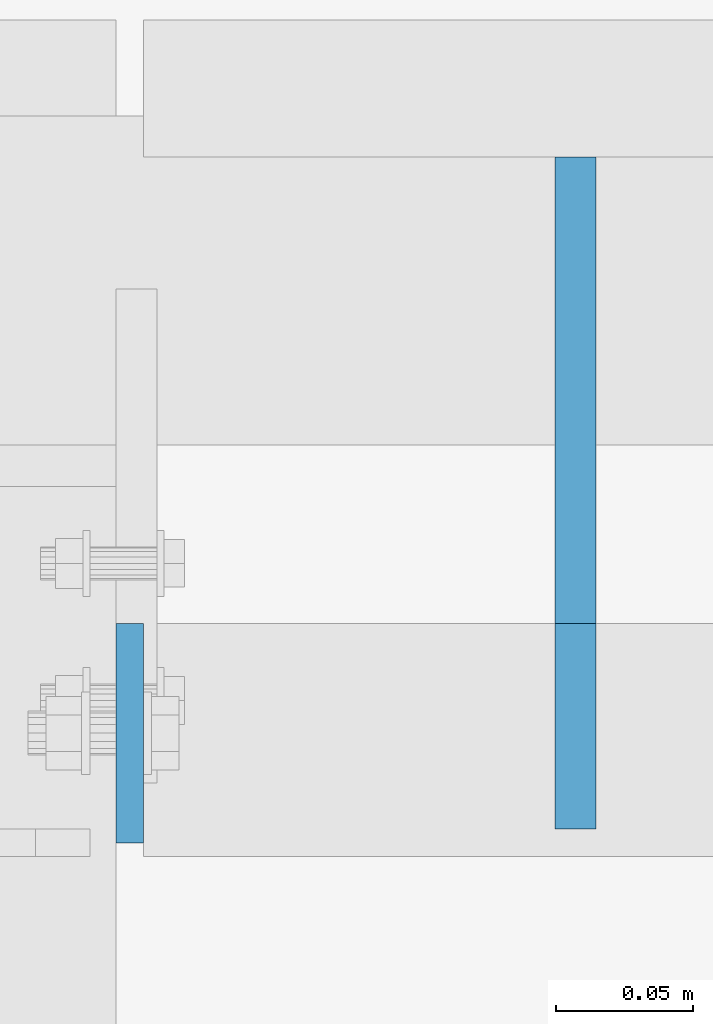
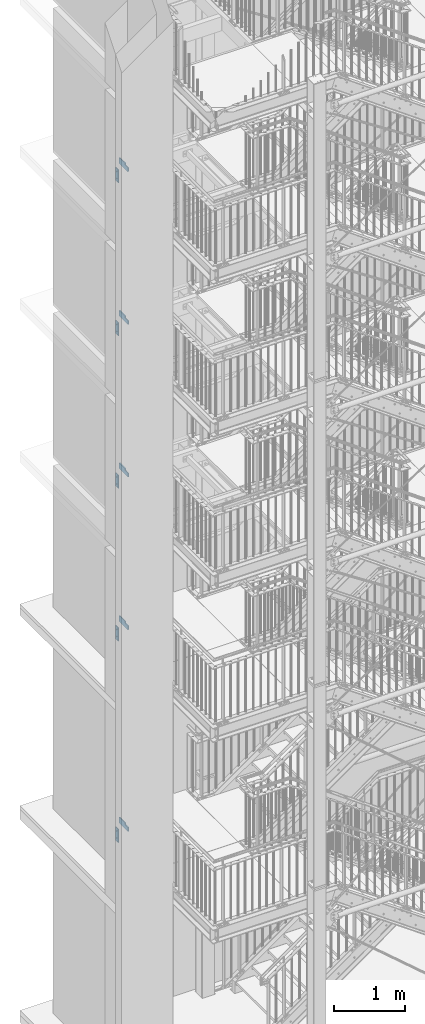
# One storey, part 179 of 821: 10 plates, 25 openings.
"""IFC2X3 building model written with IfcOpenShell, lengths in millimetres."""

from ifc_helpers import new_model, entity, si_unit, converted_unit, point, frame, frame_2d, origin, origin_with_axes, origin_2d_with_axis, place, context, project, spatial, polyline, circle_curve, line_curve, trimmed, segment, composite_curve, circle, outline, extrude, material, layer, layer_set, element, save


model = new_model("IFC2X3")

# Units and contexts
model_context = context("Model", 3, precision=1e-09, world=origin_with_axes())
ifc_project = project(units=[si_unit("LENGTHUNIT", "METRE", prefix="MILLI"), si_unit("AREAUNIT", "SQUARE_METRE"), si_unit("VOLUMEUNIT", "CUBIC_METRE"), converted_unit("PLANEANGLEUNIT", "DEGREE", entity("IfcPlaneAngleMeasure", 0.01745329), si_unit("PLANEANGLEUNIT", "RADIAN"), dimensions=[0, 0, 0, 0, 0, 0, 0])], contexts=[model_context])

# Site, building, storey
site_placement = place(None, origin_with_axes())
site = spatial("IfcSite", under=ifc_project, at=site_placement, Name="Cnopf'sche Kinderklinik", CompositionType="ELEMENT")
building_placement = place(site_placement, origin_with_axes())
building = spatial("IfcBuilding", under=site, at=building_placement, Name="Struktur 1", CompositionType="ELEMENT")
storey_placement = place(building_placement, origin_with_axes())
storey = spatial("IfcBuildingStorey", under=building, at=storey_placement, Name="Default Storey", CompositionType="ELEMENT", Elevation=0.0)

# Plate, opening
ifc_material = material(Name="S235JR")
ifc_layer_1 = layer(ifc_material, 15.0)
ifc_layer_set_1 = layer_set([ifc_layer_1], Name="S235JR")
plate_1_placement = place(None, frame((3481.713402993, 7439.236971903, 3797.0), z_axis=(-1.0, 0.0, 0.0), x_axis=(0.0, -1.0, 0.0)))
plate_1 = element("IfcPlate", 1, at=plate_1_placement, inside=storey, material=ifc_layer_set_1, Name="-", ObjectType="-", context=model_context, shape_type="SweptSolid", body=[
    extrude(outline(polyline([(-122.5, -50.0), (122.5, -50.0), (122.5, 50.0), (-122.5, 50.0), (-122.5, -50.0)])), origin_with_axes(), (0.0, 0.0, -1.0), 15.0),
])
opening_1_placement = place(plate_1_placement, frame((47.499, 29.999, 0.1), z_axis=(0.0, 0.0, 1.0), x_axis=(0.707106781, -0.707106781, 0.0)))
element("IfcOpeningElement", 2, at=opening_1_placement, cuts=plate_1, ObjectType="Opening", context=model_context, shape_type="SweptSolid", body=[
    extrude(outline(composite_curve([segment(trimmed(circle_curve(frame_2d((7.071067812, 7.071067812), x_axis=(1.0, 0.0)), 10.0), [point((0.0, 0.0))], [point((14.142135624, 0.0))], True, "CARTESIAN"), True, "CONTINUOUS"), segment(trimmed(line_curve((14.142135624, 0.0), (0.707106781, 0.707106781), 93.063804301), [point((14.142135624, 0.0))], [point((79.948182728, 65.806047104))], True, "CARTESIAN"), True, "CONTINUOUS"), segment(trimmed(circle_curve(frame_2d((72.877114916, 72.877114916), x_axis=(1.0, 0.0)), 10.0), [point((79.948182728, 65.806047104))], [point((79.948182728, 79.948182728))], True, "CARTESIAN"), True, "CONTINUOUS"), segment(trimmed(line_curve((79.948182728, 79.948182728), (-0.707106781, 0.707106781), 40.184858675), [point((79.948182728, 79.948182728))], [point((51.533196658, 108.363168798))], True, "CARTESIAN"), True, "CONTINUOUS"), segment(trimmed(circle_curve(frame_2d((44.462128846, 101.292100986), x_axis=(1.0, 0.0)), 10.0), [point((51.533196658, 108.363168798))], [point((37.391061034, 108.363168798))], True, "CARTESIAN"), True, "CONTINUOUS"), segment(trimmed(line_curve((37.391061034, 108.363168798), (-0.707106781, -0.707106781), 93.063804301), [point((37.391061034, 108.363168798))], [point((-28.41498607, 42.557121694))], True, "CARTESIAN"), True, "CONTINUOUS"), segment(trimmed(circle_curve(frame_2d((-21.343918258, 35.486053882), x_axis=(1.0, 0.0)), 10.0), [point((-28.41498607, 42.557121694))], [point((-28.41498607, 28.41498607))], True, "CARTESIAN"), True, "CONTINUOUS"), segment(trimmed(line_curve((-28.41498607, 28.41498607), (0.707106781, -0.707106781), 40.184858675), [point((-28.41498607, 28.41498607))], [point((0.0, 0.0))], True, "CARTESIAN"), True, "CONTINUOUS")], self_intersect=False)), origin(), (0.0, 0.0, -1.0), 15.2),
])

plate_2_placement = place(None, frame((3481.713402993, 7439.236971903, 7270.0), z_axis=(-1.0, 0.0, 0.0), x_axis=(0.0, -1.0, 0.0)))
plate_2 = element("IfcPlate", 3, at=plate_2_placement, inside=storey, material=ifc_layer_set_1, Name="-", ObjectType="-", context=model_context, shape_type="SweptSolid", body=[
    extrude(outline(polyline([(-122.5, -50.0), (122.5, -50.0), (122.5, 50.0), (-122.5, 50.0), (-122.5, -50.0)])), origin_with_axes(), (0.0, 0.0, -1.0), 15.0),
])
opening_2_placement = place(plate_2_placement, frame((47.499, 29.999, 0.1), z_axis=(0.0, 0.0, 1.0), x_axis=(0.707106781, -0.707106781, 0.0)))
element("IfcOpeningElement", 4, at=opening_2_placement, cuts=plate_2, ObjectType="Opening", context=model_context, shape_type="SweptSolid", body=[
    extrude(outline(composite_curve([segment(trimmed(circle_curve(frame_2d((7.071067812, 7.071067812), x_axis=(1.0, 0.0)), 10.0), [point((0.0, 0.0))], [point((14.142135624, 0.0))], True, "CARTESIAN"), True, "CONTINUOUS"), segment(trimmed(line_curve((14.142135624, 0.0), (0.707106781, 0.707106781), 93.063804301), [point((14.142135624, 0.0))], [point((79.948182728, 65.806047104))], True, "CARTESIAN"), True, "CONTINUOUS"), segment(trimmed(circle_curve(frame_2d((72.877114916, 72.877114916), x_axis=(1.0, 0.0)), 10.0), [point((79.948182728, 65.806047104))], [point((79.948182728, 79.948182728))], True, "CARTESIAN"), True, "CONTINUOUS"), segment(trimmed(line_curve((79.948182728, 79.948182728), (-0.707106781, 0.707106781), 40.184858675), [point((79.948182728, 79.948182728))], [point((51.533196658, 108.363168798))], True, "CARTESIAN"), True, "CONTINUOUS"), segment(trimmed(circle_curve(frame_2d((44.462128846, 101.292100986), x_axis=(1.0, 0.0)), 10.0), [point((51.533196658, 108.363168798))], [point((37.391061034, 108.363168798))], True, "CARTESIAN"), True, "CONTINUOUS"), segment(trimmed(line_curve((37.391061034, 108.363168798), (-0.707106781, -0.707106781), 93.063804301), [point((37.391061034, 108.363168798))], [point((-28.41498607, 42.557121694))], True, "CARTESIAN"), True, "CONTINUOUS"), segment(trimmed(circle_curve(frame_2d((-21.343918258, 35.486053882), x_axis=(1.0, 0.0)), 10.0), [point((-28.41498607, 42.557121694))], [point((-28.41498607, 28.41498607))], True, "CARTESIAN"), True, "CONTINUOUS"), segment(trimmed(line_curve((-28.41498607, 28.41498607), (0.707106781, -0.707106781), 40.184858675), [point((-28.41498607, 28.41498607))], [point((0.0, 0.0))], True, "CARTESIAN"), True, "CONTINUOUS")], self_intersect=False)), origin(), (0.0, 0.0, -1.0), 15.2),
])

plate_3_placement = place(None, frame((3481.713402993, 7439.236971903, 9902.0), z_axis=(-1.0, 0.0, 0.0), x_axis=(0.0, -1.0, 0.0)))
plate_3 = element("IfcPlate", 5, at=plate_3_placement, inside=storey, material=ifc_layer_set_1, Name="-", ObjectType="-", context=model_context, shape_type="SweptSolid", body=[
    extrude(outline(polyline([(-122.5, -50.0), (122.5, -50.0), (122.5, 50.0), (-122.5, 50.0), (-122.5, -50.0)])), origin_with_axes(), (0.0, 0.0, -1.0), 15.0),
])
opening_3_placement = place(plate_3_placement, frame((47.499, 29.999, 0.1), z_axis=(0.0, 0.0, 1.0), x_axis=(0.707106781, -0.707106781, 0.0)))
element("IfcOpeningElement", 6, at=opening_3_placement, cuts=plate_3, ObjectType="Opening", context=model_context, shape_type="SweptSolid", body=[
    extrude(outline(composite_curve([segment(trimmed(circle_curve(frame_2d((7.071067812, 7.071067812), x_axis=(1.0, 0.0)), 10.0), [point((0.0, 0.0))], [point((14.142135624, 0.0))], True, "CARTESIAN"), True, "CONTINUOUS"), segment(trimmed(line_curve((14.142135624, 0.0), (0.707106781, 0.707106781), 93.063804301), [point((14.142135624, 0.0))], [point((79.948182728, 65.806047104))], True, "CARTESIAN"), True, "CONTINUOUS"), segment(trimmed(circle_curve(frame_2d((72.877114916, 72.877114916), x_axis=(1.0, 0.0)), 10.0), [point((79.948182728, 65.806047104))], [point((79.948182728, 79.948182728))], True, "CARTESIAN"), True, "CONTINUOUS"), segment(trimmed(line_curve((79.948182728, 79.948182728), (-0.707106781, 0.707106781), 40.184858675), [point((79.948182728, 79.948182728))], [point((51.533196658, 108.363168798))], True, "CARTESIAN"), True, "CONTINUOUS"), segment(trimmed(circle_curve(frame_2d((44.462128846, 101.292100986), x_axis=(1.0, 0.0)), 10.0), [point((51.533196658, 108.363168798))], [point((37.391061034, 108.363168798))], True, "CARTESIAN"), True, "CONTINUOUS"), segment(trimmed(line_curve((37.391061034, 108.363168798), (-0.707106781, -0.707106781), 93.063804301), [point((37.391061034, 108.363168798))], [point((-28.41498607, 42.557121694))], True, "CARTESIAN"), True, "CONTINUOUS"), segment(trimmed(circle_curve(frame_2d((-21.343918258, 35.486053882), x_axis=(1.0, 0.0)), 10.0), [point((-28.41498607, 42.557121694))], [point((-28.41498607, 28.41498607))], True, "CARTESIAN"), True, "CONTINUOUS"), segment(trimmed(line_curve((-28.41498607, 28.41498607), (0.707106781, -0.707106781), 40.184858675), [point((-28.41498607, 28.41498607))], [point((0.0, 0.0))], True, "CARTESIAN"), True, "CONTINUOUS")], self_intersect=False)), origin(), (0.0, 0.0, -1.0), 15.2),
])

plate_4_placement = place(None, frame((3481.713402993, 7439.236971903, 12529.0), z_axis=(-1.0, 0.0, 0.0), x_axis=(0.0, -1.0, 0.0)))
plate_4 = element("IfcPlate", 7, at=plate_4_placement, inside=storey, material=ifc_layer_set_1, Name="-", ObjectType="-", context=model_context, shape_type="SweptSolid", body=[
    extrude(outline(polyline([(-122.5, -50.0), (122.5, -50.0), (122.5, 50.0), (-122.5, 50.0), (-122.5, -50.0)])), origin_with_axes(), (0.0, 0.0, -1.0), 15.0),
])
opening_4_placement = place(plate_4_placement, frame((47.499, 29.999, 0.1), z_axis=(0.0, 0.0, 1.0), x_axis=(0.707106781, -0.707106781, 0.0)))
element("IfcOpeningElement", 8, at=opening_4_placement, cuts=plate_4, ObjectType="Opening", context=model_context, shape_type="SweptSolid", body=[
    extrude(outline(composite_curve([segment(trimmed(circle_curve(frame_2d((7.071067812, 7.071067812), x_axis=(1.0, 0.0)), 10.0), [point((0.0, 0.0))], [point((14.142135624, 0.0))], True, "CARTESIAN"), True, "CONTINUOUS"), segment(trimmed(line_curve((14.142135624, 0.0), (0.707106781, 0.707106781), 93.063804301), [point((14.142135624, 0.0))], [point((79.948182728, 65.806047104))], True, "CARTESIAN"), True, "CONTINUOUS"), segment(trimmed(circle_curve(frame_2d((72.877114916, 72.877114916), x_axis=(1.0, 0.0)), 10.0), [point((79.948182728, 65.806047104))], [point((79.948182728, 79.948182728))], True, "CARTESIAN"), True, "CONTINUOUS"), segment(trimmed(line_curve((79.948182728, 79.948182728), (-0.707106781, 0.707106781), 40.184858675), [point((79.948182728, 79.948182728))], [point((51.533196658, 108.363168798))], True, "CARTESIAN"), True, "CONTINUOUS"), segment(trimmed(circle_curve(frame_2d((44.462128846, 101.292100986), x_axis=(1.0, 0.0)), 10.0), [point((51.533196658, 108.363168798))], [point((37.391061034, 108.363168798))], True, "CARTESIAN"), True, "CONTINUOUS"), segment(trimmed(line_curve((37.391061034, 108.363168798), (-0.707106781, -0.707106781), 93.063804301), [point((37.391061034, 108.363168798))], [point((-28.41498607, 42.557121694))], True, "CARTESIAN"), True, "CONTINUOUS"), segment(trimmed(circle_curve(frame_2d((-21.343918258, 35.486053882), x_axis=(1.0, 0.0)), 10.0), [point((-28.41498607, 42.557121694))], [point((-28.41498607, 28.41498607))], True, "CARTESIAN"), True, "CONTINUOUS"), segment(trimmed(line_curve((-28.41498607, 28.41498607), (0.707106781, -0.707106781), 40.184858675), [point((-28.41498607, 28.41498607))], [point((0.0, 0.0))], True, "CARTESIAN"), True, "CONTINUOUS")], self_intersect=False)), origin(), (0.0, 0.0, -1.0), 15.2),
])

plate_5_placement = place(None, frame((3481.713402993, 7439.236971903, 15164.0), z_axis=(-1.0, 0.0, 0.0), x_axis=(0.0, -1.0, 0.0)))
plate_5 = element("IfcPlate", 9, at=plate_5_placement, inside=storey, material=ifc_layer_set_1, Name="-", ObjectType="-", context=model_context, shape_type="SweptSolid", body=[
    extrude(outline(polyline([(-122.5, -50.0), (122.5, -50.0), (122.5, 50.0), (-122.5, 50.0), (-122.5, -50.0)])), origin_with_axes(), (0.0, 0.0, -1.0), 15.0),
])
opening_5_placement = place(plate_5_placement, frame((47.499, 29.999, 0.1), z_axis=(0.0, 0.0, 1.0), x_axis=(0.707106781, -0.707106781, 0.0)))
element("IfcOpeningElement", 10, at=opening_5_placement, cuts=plate_5, ObjectType="Opening", context=model_context, shape_type="SweptSolid", body=[
    extrude(outline(composite_curve([segment(trimmed(circle_curve(frame_2d((7.071067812, 7.071067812), x_axis=(1.0, 0.0)), 10.0), [point((0.0, 0.0))], [point((14.142135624, 0.0))], True, "CARTESIAN"), True, "CONTINUOUS"), segment(trimmed(line_curve((14.142135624, 0.0), (0.707106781, 0.707106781), 93.063804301), [point((14.142135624, 0.0))], [point((79.948182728, 65.806047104))], True, "CARTESIAN"), True, "CONTINUOUS"), segment(trimmed(circle_curve(frame_2d((72.877114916, 72.877114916), x_axis=(1.0, 0.0)), 10.0), [point((79.948182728, 65.806047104))], [point((79.948182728, 79.948182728))], True, "CARTESIAN"), True, "CONTINUOUS"), segment(trimmed(line_curve((79.948182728, 79.948182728), (-0.707106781, 0.707106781), 40.184858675), [point((79.948182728, 79.948182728))], [point((51.533196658, 108.363168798))], True, "CARTESIAN"), True, "CONTINUOUS"), segment(trimmed(circle_curve(frame_2d((44.462128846, 101.292100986), x_axis=(1.0, 0.0)), 10.0), [point((51.533196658, 108.363168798))], [point((37.391061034, 108.363168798))], True, "CARTESIAN"), True, "CONTINUOUS"), segment(trimmed(line_curve((37.391061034, 108.363168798), (-0.707106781, -0.707106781), 93.063804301), [point((37.391061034, 108.363168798))], [point((-28.41498607, 42.557121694))], True, "CARTESIAN"), True, "CONTINUOUS"), segment(trimmed(circle_curve(frame_2d((-21.343918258, 35.486053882), x_axis=(1.0, 0.0)), 10.0), [point((-28.41498607, 42.557121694))], [point((-28.41498607, 28.41498607))], True, "CARTESIAN"), True, "CONTINUOUS"), segment(trimmed(line_curve((-28.41498607, 28.41498607), (0.707106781, -0.707106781), 40.184858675), [point((-28.41498607, 28.41498607))], [point((0.0, 0.0))], True, "CARTESIAN"), True, "CONTINUOUS")], self_intersect=False)), origin(), (0.0, 0.0, -1.0), 15.2),
])

# Plate, openings
ifc_layer_2 = layer(ifc_material, 10.0)
ifc_layer_set_2 = layer_set([ifc_layer_2], Name="S235JR")
plate_6_placement = place(None, frame((3321.713402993, 7311.736971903, 3842.0), z_axis=(1.0, 0.0, 0.0), x_axis=(0.0, 0.0, -1.0)))
plate_6 = element("IfcPlate", 11, at=plate_6_placement, inside=storey, material=ifc_layer_set_2, Name="Endplate", ObjectType="Endplate", context=model_context, shape_type="SweptSolid", body=[
    extrude(outline(polyline([(0.0, 0.0), (230.0, 0.0), (230.0, 80.0), (0.0, 80.0), (0.0, 0.0)])), origin_with_axes(), (0.0, 0.0, 1.0), 10.0),
])
opening_6_placement = place(plate_6_placement, frame((209.0, 17.5, -0.5), z_axis=(0.0, 0.0, 1.0), x_axis=(1.0, 0.0, 0.0)))
element("IfcOpeningElement", 12, at=opening_6_placement, cuts=plate_6, ObjectType="Opening", context=model_context, shape_type="SweptSolid", body=[
    extrude(circle(Radius=6.001, at=origin_2d_with_axis()), origin(), (0.0, 0.0, 1.0), 11.0),
])
opening_7_placement = place(plate_6_placement, frame((21.0, 17.5, -0.5), z_axis=(0.0, 0.0, 1.0), x_axis=(1.0, 0.0, 0.0)))
element("IfcOpeningElement", 13, at=opening_7_placement, cuts=plate_6, ObjectType="Opening", context=model_context, shape_type="SweptSolid", body=[
    extrude(circle(Radius=6.001, at=origin_2d_with_axis()), origin(), (0.0, 0.0, 1.0), 11.0),
])
opening_8_placement = place(plate_6_placement, frame((64.001, 40.0, -0.5), z_axis=(0.0, 0.0, -1.0), x_axis=(-1.0, 0.0, 0.0)))
element("IfcOpeningElement", 14, at=opening_8_placement, cuts=plate_6, ObjectType="Opening", context=model_context, shape_type="SweptSolid", body=[
    extrude(circle(Radius=9.001, at=frame_2d((9.001, 0.0), x_axis=(1.0, 0.0))), origin(), (0.0, 0.0, -1.0), 11.0),
])
opening_9_placement = place(plate_6_placement, frame((184.001, 40.0, -0.5), z_axis=(0.0, 0.0, -1.0), x_axis=(-1.0, 0.0, 0.0)))
element("IfcOpeningElement", 15, at=opening_9_placement, cuts=plate_6, ObjectType="Opening", context=model_context, shape_type="SweptSolid", body=[
    extrude(circle(Radius=9.001, at=frame_2d((9.001, 0.0), x_axis=(1.0, 0.0))), origin(), (0.0, 0.0, -1.0), 11.0),
])

plate_7_placement = place(None, frame((3321.713402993, 7311.736971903, 7315.0), z_axis=(1.0, 0.0, 0.0), x_axis=(0.0, 0.0, -1.0)))
plate_7 = element("IfcPlate", 16, at=plate_7_placement, inside=storey, material=ifc_layer_set_2, Name="Endplate", ObjectType="Endplate", context=model_context, shape_type="SweptSolid", body=[
    extrude(outline(polyline([(0.0, 0.0), (230.0, 0.0), (230.0, 80.0), (0.0, 80.0), (0.0, 0.0)])), origin_with_axes(), (0.0, 0.0, 1.0), 10.0),
])
opening_10_placement = place(plate_7_placement, frame((209.0, 17.5, -0.5), z_axis=(0.0, 0.0, 1.0), x_axis=(1.0, 0.0, 0.0)))
element("IfcOpeningElement", 17, at=opening_10_placement, cuts=plate_7, ObjectType="Opening", context=model_context, shape_type="SweptSolid", body=[
    extrude(circle(Radius=6.001, at=origin_2d_with_axis()), origin(), (0.0, 0.0, 1.0), 11.0),
])
opening_11_placement = place(plate_7_placement, frame((21.0, 17.5, -0.5), z_axis=(0.0, 0.0, 1.0), x_axis=(1.0, 0.0, 0.0)))
element("IfcOpeningElement", 18, at=opening_11_placement, cuts=plate_7, ObjectType="Opening", context=model_context, shape_type="SweptSolid", body=[
    extrude(circle(Radius=6.001, at=origin_2d_with_axis()), origin(), (0.0, 0.0, 1.0), 11.0),
])
opening_12_placement = place(plate_7_placement, frame((64.001, 40.0, -0.5), z_axis=(0.0, 0.0, -1.0), x_axis=(-1.0, 0.0, 0.0)))
element("IfcOpeningElement", 19, at=opening_12_placement, cuts=plate_7, ObjectType="Opening", context=model_context, shape_type="SweptSolid", body=[
    extrude(circle(Radius=9.001, at=frame_2d((9.001, 0.0), x_axis=(1.0, 0.0))), origin(), (0.0, 0.0, -1.0), 11.0),
])
opening_13_placement = place(plate_7_placement, frame((184.001, 40.0, -0.5), z_axis=(0.0, 0.0, -1.0), x_axis=(-1.0, 0.0, 0.0)))
element("IfcOpeningElement", 20, at=opening_13_placement, cuts=plate_7, ObjectType="Opening", context=model_context, shape_type="SweptSolid", body=[
    extrude(circle(Radius=9.001, at=frame_2d((9.001, 0.0), x_axis=(1.0, 0.0))), origin(), (0.0, 0.0, -1.0), 11.0),
])

plate_8_placement = place(None, frame((3321.713402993, 7311.736971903, 9947.0), z_axis=(1.0, 0.0, 0.0), x_axis=(0.0, 0.0, -1.0)))
plate_8 = element("IfcPlate", 21, at=plate_8_placement, inside=storey, material=ifc_layer_set_2, Name="Endplate", ObjectType="Endplate", context=model_context, shape_type="SweptSolid", body=[
    extrude(outline(polyline([(0.0, 0.0), (230.0, 0.0), (230.0, 80.0), (0.0, 80.0), (0.0, 0.0)])), origin_with_axes(), (0.0, 0.0, 1.0), 10.0),
])
opening_14_placement = place(plate_8_placement, frame((209.0, 17.5, -0.5), z_axis=(0.0, 0.0, 1.0), x_axis=(1.0, 0.0, 0.0)))
element("IfcOpeningElement", 22, at=opening_14_placement, cuts=plate_8, ObjectType="Opening", context=model_context, shape_type="SweptSolid", body=[
    extrude(circle(Radius=6.001, at=origin_2d_with_axis()), origin(), (0.0, 0.0, 1.0), 11.0),
])
opening_15_placement = place(plate_8_placement, frame((21.0, 17.5, -0.5), z_axis=(0.0, 0.0, 1.0), x_axis=(1.0, 0.0, 0.0)))
element("IfcOpeningElement", 23, at=opening_15_placement, cuts=plate_8, ObjectType="Opening", context=model_context, shape_type="SweptSolid", body=[
    extrude(circle(Radius=6.001, at=origin_2d_with_axis()), origin(), (0.0, 0.0, 1.0), 11.0),
])
opening_16_placement = place(plate_8_placement, frame((64.001, 40.0, -0.5), z_axis=(0.0, 0.0, -1.0), x_axis=(-1.0, 0.0, 0.0)))
element("IfcOpeningElement", 24, at=opening_16_placement, cuts=plate_8, ObjectType="Opening", context=model_context, shape_type="SweptSolid", body=[
    extrude(circle(Radius=9.001, at=frame_2d((9.001, 0.0), x_axis=(1.0, 0.0))), origin(), (0.0, 0.0, -1.0), 11.0),
])
opening_17_placement = place(plate_8_placement, frame((184.001, 40.0, -0.5), z_axis=(0.0, 0.0, -1.0), x_axis=(-1.0, 0.0, 0.0)))
element("IfcOpeningElement", 25, at=opening_17_placement, cuts=plate_8, ObjectType="Opening", context=model_context, shape_type="SweptSolid", body=[
    extrude(circle(Radius=9.001, at=frame_2d((9.001, 0.0), x_axis=(1.0, 0.0))), origin(), (0.0, 0.0, -1.0), 11.0),
])

plate_9_placement = place(None, frame((3321.713402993, 7311.736971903, 12574.0), z_axis=(1.0, 0.0, 0.0), x_axis=(0.0, 0.0, -1.0)))
plate_9 = element("IfcPlate", 26, at=plate_9_placement, inside=storey, material=ifc_layer_set_2, Name="Endplate", ObjectType="Endplate", context=model_context, shape_type="SweptSolid", body=[
    extrude(outline(polyline([(0.0, 0.0), (230.0, 0.0), (230.0, 80.0), (0.0, 80.0), (0.0, 0.0)])), origin_with_axes(), (0.0, 0.0, 1.0), 10.0),
])
opening_18_placement = place(plate_9_placement, frame((209.0, 17.5, -0.5), z_axis=(0.0, 0.0, 1.0), x_axis=(1.0, 0.0, 0.0)))
element("IfcOpeningElement", 27, at=opening_18_placement, cuts=plate_9, ObjectType="Opening", context=model_context, shape_type="SweptSolid", body=[
    extrude(circle(Radius=6.001, at=origin_2d_with_axis()), origin(), (0.0, 0.0, 1.0), 11.0),
])
opening_19_placement = place(plate_9_placement, frame((21.0, 17.5, -0.5), z_axis=(0.0, 0.0, 1.0), x_axis=(1.0, 0.0, 0.0)))
element("IfcOpeningElement", 28, at=opening_19_placement, cuts=plate_9, ObjectType="Opening", context=model_context, shape_type="SweptSolid", body=[
    extrude(circle(Radius=6.001, at=origin_2d_with_axis()), origin(), (0.0, 0.0, 1.0), 11.0),
])
opening_20_placement = place(plate_9_placement, frame((64.001, 40.0, -0.5), z_axis=(0.0, 0.0, -1.0), x_axis=(-1.0, 0.0, 0.0)))
element("IfcOpeningElement", 29, at=opening_20_placement, cuts=plate_9, ObjectType="Opening", context=model_context, shape_type="SweptSolid", body=[
    extrude(circle(Radius=9.001, at=frame_2d((9.001, 0.0), x_axis=(1.0, 0.0))), origin(), (0.0, 0.0, -1.0), 11.0),
])
opening_21_placement = place(plate_9_placement, frame((184.001, 40.0, -0.5), z_axis=(0.0, 0.0, -1.0), x_axis=(-1.0, 0.0, 0.0)))
element("IfcOpeningElement", 30, at=opening_21_placement, cuts=plate_9, ObjectType="Opening", context=model_context, shape_type="SweptSolid", body=[
    extrude(circle(Radius=9.001, at=frame_2d((9.001, 0.0), x_axis=(1.0, 0.0))), origin(), (0.0, 0.0, -1.0), 11.0),
])

plate_10_placement = place(None, frame((3321.713402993, 7311.736971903, 15209.0), z_axis=(1.0, 0.0, 0.0), x_axis=(0.0, 0.0, -1.0)))
plate_10 = element("IfcPlate", 31, at=plate_10_placement, inside=storey, material=ifc_layer_set_2, Name="Endplate", ObjectType="Endplate", context=model_context, shape_type="SweptSolid", body=[
    extrude(outline(polyline([(0.0, 0.0), (230.0, 0.0), (230.0, 80.0), (0.0, 80.0), (0.0, 0.0)])), origin_with_axes(), (0.0, 0.0, 1.0), 10.0),
])
opening_22_placement = place(plate_10_placement, frame((209.0, 17.5, -0.5), z_axis=(0.0, 0.0, 1.0), x_axis=(1.0, 0.0, 0.0)))
element("IfcOpeningElement", 32, at=opening_22_placement, cuts=plate_10, ObjectType="Opening", context=model_context, shape_type="SweptSolid", body=[
    extrude(circle(Radius=6.001, at=origin_2d_with_axis()), origin(), (0.0, 0.0, 1.0), 11.0),
])
opening_23_placement = place(plate_10_placement, frame((21.0, 17.5, -0.5), z_axis=(0.0, 0.0, 1.0), x_axis=(1.0, 0.0, 0.0)))
element("IfcOpeningElement", 33, at=opening_23_placement, cuts=plate_10, ObjectType="Opening", context=model_context, shape_type="SweptSolid", body=[
    extrude(circle(Radius=6.001, at=origin_2d_with_axis()), origin(), (0.0, 0.0, 1.0), 11.0),
])
opening_24_placement = place(plate_10_placement, frame((64.001, 40.0, -0.5), z_axis=(0.0, 0.0, -1.0), x_axis=(-1.0, 0.0, 0.0)))
element("IfcOpeningElement", 34, at=opening_24_placement, cuts=plate_10, ObjectType="Opening", context=model_context, shape_type="SweptSolid", body=[
    extrude(circle(Radius=9.001, at=frame_2d((9.001, 0.0), x_axis=(1.0, 0.0))), origin(), (0.0, 0.0, -1.0), 11.0),
])
opening_25_placement = place(plate_10_placement, frame((184.001, 40.0, -0.5), z_axis=(0.0, 0.0, -1.0), x_axis=(-1.0, 0.0, 0.0)))
element("IfcOpeningElement", 35, at=opening_25_placement, cuts=plate_10, ObjectType="Opening", context=model_context, shape_type="SweptSolid", body=[
    extrude(circle(Radius=9.001, at=frame_2d((9.001, 0.0), x_axis=(1.0, 0.0))), origin(), (0.0, 0.0, -1.0), 11.0),
])

save(model, "model.ifc")
